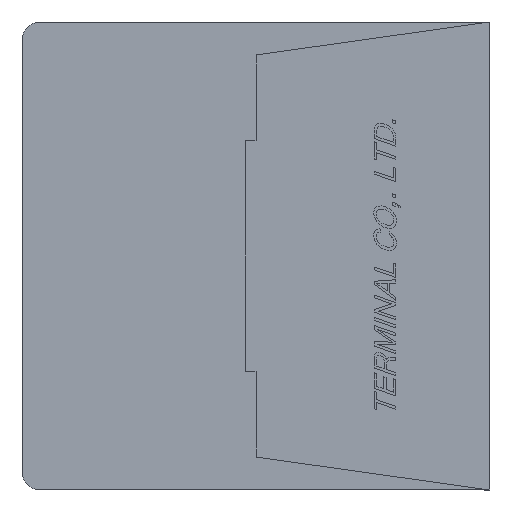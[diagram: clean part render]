
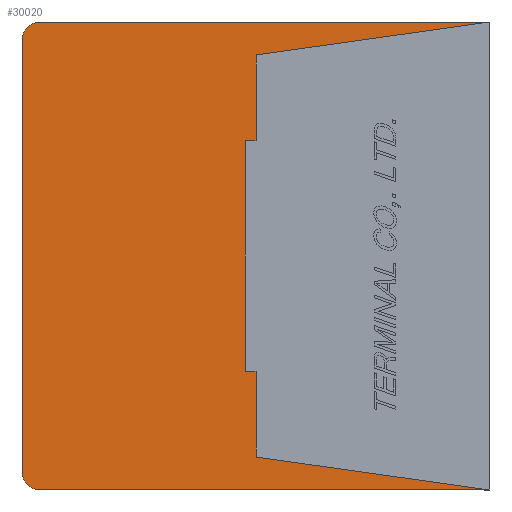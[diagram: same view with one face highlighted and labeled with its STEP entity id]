
A CAD part, left-side view. The second image highlights one B-rep face of the part: STEP entity #30020.
In plain terms, the highlighted planar face has unit normal (-1, 0, 0).
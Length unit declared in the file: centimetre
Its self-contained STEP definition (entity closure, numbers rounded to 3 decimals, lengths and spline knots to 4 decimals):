
#1557=CIRCLE('',#51419,0.05);
#1558=CIRCLE('',#51422,0.05);
#2660=VERTEX_POINT('',#41735);
#2661=VERTEX_POINT('',#41737);
#2662=VERTEX_POINT('',#41741);
#2663=VERTEX_POINT('',#41745);
#2664=VERTEX_POINT('',#41749);
#2665=VERTEX_POINT('',#41753);
#2666=VERTEX_POINT('',#41757);
#2667=VERTEX_POINT('',#41759);
#2668=VERTEX_POINT('',#41761);
#2669=VERTEX_POINT('',#41763);
#2670=VERTEX_POINT('',#41765);
#2671=VERTEX_POINT('',#41767);
#5845=VECTOR('',#34748,1.);
#5849=VECTOR('',#34757,1.);
#5852=VECTOR('',#34765,1.);
#5853=VECTOR('',#34767,1.);
#5854=VECTOR('',#34768,1.);
#5855=VECTOR('',#34769,1.);
#5856=VECTOR('',#34770,1.);
#5857=VECTOR('',#34771,1.);
#5858=VECTOR('',#34772,1.);
#5859=VECTOR('',#34773,1.);
#9384=LINE('',#41736,#5845);
#9388=LINE('',#41746,#5849);
#9391=LINE('',#41754,#5852);
#9392=LINE('',#41756,#5853);
#9393=LINE('',#41758,#5854);
#9394=LINE('',#41760,#5855);
#9395=LINE('',#41762,#5856);
#9396=LINE('',#41764,#5857);
#9397=LINE('',#41766,#5858);
#9398=LINE('',#41768,#5859);
#13305=EDGE_CURVE('',#2661,#2660,#9384,.T.);
#13308=EDGE_CURVE('',#2662,#2660,#1557,.T.);
#13310=EDGE_CURVE('',#2662,#2663,#9388,.T.);
#13312=EDGE_CURVE('',#2664,#2663,#1558,.T.);
#13314=EDGE_CURVE('',#2664,#2665,#9391,.T.);
#13315=EDGE_CURVE('',#2666,#2661,#9392,.T.);
#13316=EDGE_CURVE('',#2665,#2667,#9393,.T.);
#13317=EDGE_CURVE('',#2667,#2668,#9394,.T.);
#13318=EDGE_CURVE('',#2668,#2669,#9395,.T.);
#13319=EDGE_CURVE('',#2669,#2670,#9396,.T.);
#13320=EDGE_CURVE('',#2670,#2671,#9397,.T.);
#13321=EDGE_CURVE('',#2671,#2666,#9398,.T.);
#19363=ORIENTED_EDGE('',*,*,#13315,.T.);
#19364=ORIENTED_EDGE('',*,*,#13305,.T.);
#19365=ORIENTED_EDGE('',*,*,#13308,.F.);
#19366=ORIENTED_EDGE('',*,*,#13310,.T.);
#19367=ORIENTED_EDGE('',*,*,#13312,.F.);
#19368=ORIENTED_EDGE('',*,*,#13314,.T.);
#19369=ORIENTED_EDGE('',*,*,#13316,.T.);
#19370=ORIENTED_EDGE('',*,*,#13317,.T.);
#19371=ORIENTED_EDGE('',*,*,#13318,.T.);
#19372=ORIENTED_EDGE('',*,*,#13319,.T.);
#19373=ORIENTED_EDGE('',*,*,#13320,.T.);
#19374=ORIENTED_EDGE('',*,*,#13321,.T.);
#26136=EDGE_LOOP('',(#19363,#19364,#19365,#19366,#19367,#19368,#19369,#19370,
#19371,#19372,#19373,#19374));
#28121=FACE_BOUND('',#26136,.T.);
#30020=ADVANCED_FACE('',(#28121),#31667,.F.);
#31667=PLANE('',#51424);
#34748=DIRECTION('',(0.,1.,0.));
#34753=DIRECTION('',(1.,0.,0.));
#34754=DIRECTION('',(0.,0.,-0.05));
#34757=DIRECTION('',(0.,0.,-1.));
#34761=DIRECTION('',(1.,0.,0.));
#34762=DIRECTION('',(0.,0.,-0.05));
#34765=DIRECTION('',(0.,-1.,0.));
#34766=DIRECTION('',(1.,0.,0.));
#34767=DIRECTION('',(0.,-0.99,0.139));
#34768=DIRECTION('',(0.,0.99,0.139));
#34769=DIRECTION('',(0.,0.,1.));
#34770=DIRECTION('',(0.,1.,0.));
#34771=DIRECTION('',(0.,0.,1.));
#34772=DIRECTION('',(0.,-1.,0.));
#34773=DIRECTION('',(0.,0.,1.));
#41735=CARTESIAN_POINT('',(-0.889,1.23,0.64));
#41736=CARTESIAN_POINT('',(-0.889,0.,0.64));
#41737=CARTESIAN_POINT('',(-0.889,0.,0.64));
#41741=CARTESIAN_POINT('',(-0.889,1.28,0.59));
#41742=CARTESIAN_POINT('',(-0.889,1.23,0.59));
#41745=CARTESIAN_POINT('',(-0.889,1.28,-0.59));
#41746=CARTESIAN_POINT('',(-0.889,1.28,0.59));
#41749=CARTESIAN_POINT('',(-0.889,1.23,-0.64));
#41750=CARTESIAN_POINT('',(-0.889,1.23,-0.59));
#41753=CARTESIAN_POINT('',(-0.889,0.,-0.64));
#41754=CARTESIAN_POINT('',(-0.889,1.23,-0.64));
#41755=CARTESIAN_POINT('',(-0.889,0.6345,0.));
#41756=CARTESIAN_POINT('',(-0.889,0.64,0.55));
#41757=CARTESIAN_POINT('',(-0.889,0.64,0.55));
#41758=CARTESIAN_POINT('',(-0.889,0.,-0.64));
#41759=CARTESIAN_POINT('',(-0.889,0.64,-0.55));
#41760=CARTESIAN_POINT('',(-0.889,0.64,-0.55));
#41761=CARTESIAN_POINT('',(-0.889,0.64,-0.315));
#41762=CARTESIAN_POINT('',(-0.889,0.64,-0.315));
#41763=CARTESIAN_POINT('',(-0.889,0.67,-0.315));
#41764=CARTESIAN_POINT('',(-0.889,0.67,-0.315));
#41765=CARTESIAN_POINT('',(-0.889,0.67,0.315));
#41766=CARTESIAN_POINT('',(-0.889,0.67,0.315));
#41767=CARTESIAN_POINT('',(-0.889,0.64,0.315));
#41768=CARTESIAN_POINT('',(-0.889,0.64,0.315));
#51419=AXIS2_PLACEMENT_3D('',#41742,#34753,#34754);
#51422=AXIS2_PLACEMENT_3D('',#41750,#34761,#34762);
#51424=AXIS2_PLACEMENT_3D('',#41755,#34766,$);
